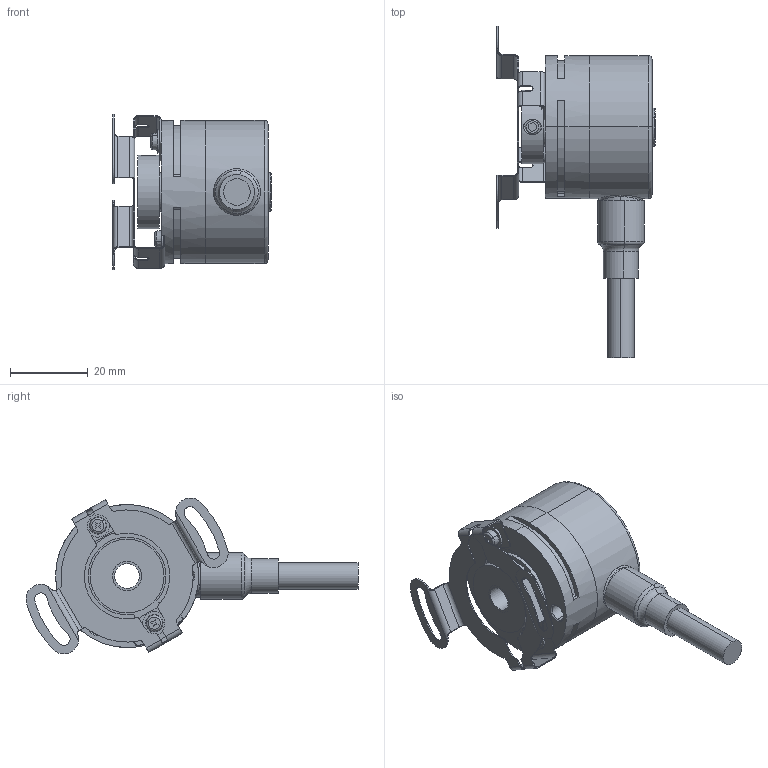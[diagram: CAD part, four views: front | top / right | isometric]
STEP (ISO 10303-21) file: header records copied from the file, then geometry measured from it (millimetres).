
FILE_DESCRIPTION (( 'STEP AP214' ), '1' );
FILE_NAME ('3720.54X1.XXXX.STEP', '2008-11-28T06:43:27', ( 'admin' ), ( 'Fritz Kübler GmbH' ), 'SwSTEP 2.0', 'SolidWorks 2008', '' );
FILE_SCHEMA (( 'AUTOMOTIVE_DESIGN' ));
Length unit declared in the file: millimetre
Products named in the file (1): 3720.54X1.XXXX
Bounding box: 40.7 x 85.4 x 40.1 mm (x, y, z)
Volume: 16390.6 mm3; surface area: 21070.8 mm2
Topology: 13 solids, 13 shells, 708 faces, 1744 edges, 1082 vertices
Faces by surface type: cylinder 320, plane 201, torus 94, cone 39, bspline 29, sphere 25
Entity records: 30501 total; most frequent: CARTESIAN_POINT 5657, DIRECTION 3765, ORIENTED_EDGE 3442, EDGE_CURVE 1721, AXIS2_PLACEMENT_3D 1538, VERTEX_POINT 1072, CIRCLE 858, EDGE_LOOP 773
